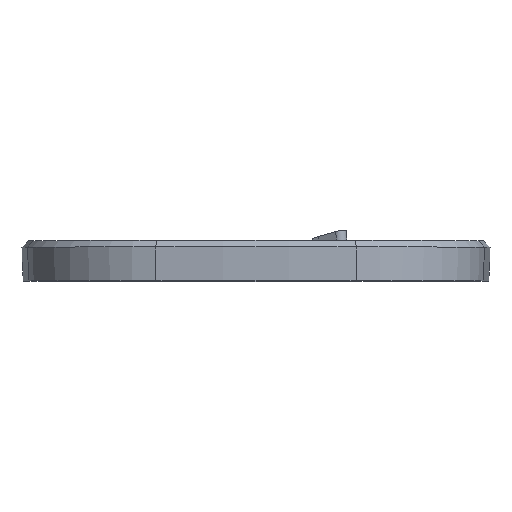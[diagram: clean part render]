
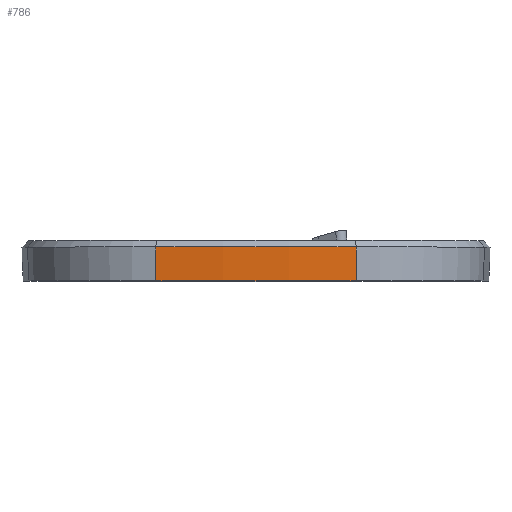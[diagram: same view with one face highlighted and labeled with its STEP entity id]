
A CAD part, top view. The second image highlights one B-rep face of the part: STEP entity #786.
In plain terms, the highlighted conical face has half-angle 2 degrees and reference radius 60 mm.
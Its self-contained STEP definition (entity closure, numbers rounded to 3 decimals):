
#15 = CIRCLE ( 'NONE', #1035, 59.983 ) ;
#36 = LINE ( 'NONE', #7715, #5293 ) ;
#39 = CARTESIAN_POINT ( 'NONE',  ( 0., 0., -42.536 ) ) ;
#147 = EDGE_CURVE ( 'NONE', #991, #3834, #15, .T. ) ;
#457 = ORIENTED_EDGE ( 'NONE', *, *, #1026, .T. ) ;
#480 = CARTESIAN_POINT ( 'NONE',  ( -7.449, 2.517, 16.983 ) ) ;
#677 = DIRECTION ( 'NONE',  ( 0.004, -0.999, -0.035 ) ) ;
#786 = ADVANCED_FACE ( 'NONE', ( #4503 ), #2027, .T. ) ;
#940 = CIRCLE ( 'NONE', #7471, 59.895 ) ;
#991 = VERTEX_POINT ( 'NONE', #5355 ) ;
#1026 = EDGE_CURVE ( 'NONE', #3834, #5493, #36, .T. ) ;
#1035 = AXIS2_PLACEMENT_3D ( 'NONE', #7509, #3966, #6954 ) ;
#1323 = EDGE_CURVE ( 'NONE', #991, #3888, #2678, .T. ) ;
#1372 = DIRECTION ( 'NONE',  ( 0., 0., 1. ) ) ;
#1808 = CARTESIAN_POINT ( 'NONE',  ( -7.438, 0., 16.896 ) ) ;
#2027 = CONICAL_SURFACE ( 'NONE', #3406, 60., 0.035 ) ;
#2678 = LINE ( 'NONE', #6738, #4376 ) ;
#3406 = AXIS2_PLACEMENT_3D ( 'NONE', #5185, #6943, #7626 ) ;
#3603 = ORIENTED_EDGE ( 'NONE', *, *, #147, .T. ) ;
#3834 = VERTEX_POINT ( 'NONE', #480 ) ;
#3888 = VERTEX_POINT ( 'NONE', #5510 ) ;
#3966 = DIRECTION ( 'NONE',  ( 0., -1., 0. ) ) ;
#4320 = DIRECTION ( 'NONE',  ( 0., 1., 0. ) ) ;
#4376 = VECTOR ( 'NONE', #5083, 1000. ) ;
#4503 = FACE_OUTER_BOUND ( 'NONE', #7681, .T. ) ;
#5083 = DIRECTION ( 'NONE',  ( -0.004, -0.999, -0.035 ) ) ;
#5185 = CARTESIAN_POINT ( 'NONE',  ( 0., 3., -42.536 ) ) ;
#5293 = VECTOR ( 'NONE', #677, 1000. ) ;
#5355 = CARTESIAN_POINT ( 'NONE',  ( 7.449, 2.517, 16.983 ) ) ;
#5493 = VERTEX_POINT ( 'NONE', #1808 ) ;
#5510 = CARTESIAN_POINT ( 'NONE',  ( 7.438, 0., 16.896 ) ) ;
#5642 = ORIENTED_EDGE ( 'NONE', *, *, #1323, .F. ) ;
#6213 = EDGE_CURVE ( 'NONE', #5493, #3888, #940, .T. ) ;
#6738 = CARTESIAN_POINT ( 'NONE',  ( 7.451, 3., 17. ) ) ;
#6926 = ORIENTED_EDGE ( 'NONE', *, *, #6213, .T. ) ;
#6943 = DIRECTION ( 'NONE',  ( 0., 1., 0. ) ) ;
#6954 = DIRECTION ( 'NONE',  ( 0., 0., 1. ) ) ;
#7471 = AXIS2_PLACEMENT_3D ( 'NONE', #39, #4320, #1372 ) ;
#7509 = CARTESIAN_POINT ( 'NONE',  ( 0., 2.517, -42.536 ) ) ;
#7626 = DIRECTION ( 'NONE',  ( 0., 0., -1. ) ) ;
#7681 = EDGE_LOOP ( 'NONE', ( #5642, #3603, #457, #6926 ) ) ;
#7715 = CARTESIAN_POINT ( 'NONE',  ( -7.451, 3., 17. ) ) ;
